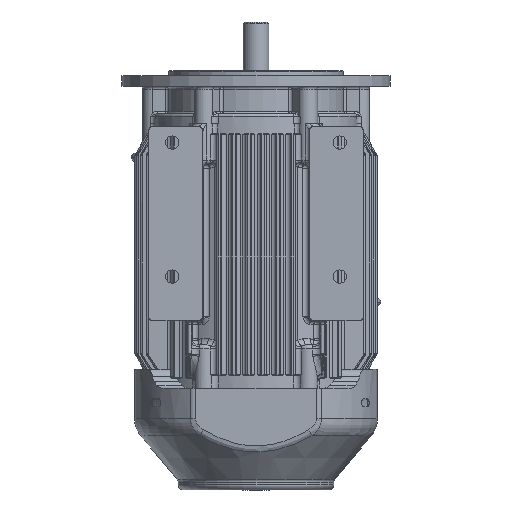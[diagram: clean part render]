
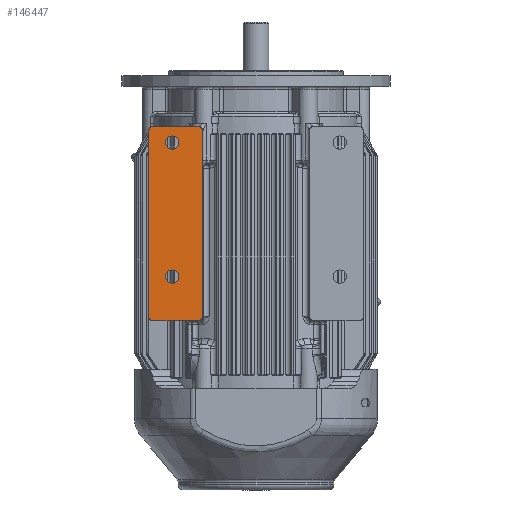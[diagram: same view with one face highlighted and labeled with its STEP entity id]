
A CAD part, front view. The second image highlights one B-rep face of the part: STEP entity #146447.
In plain terms, the highlighted planar face has unit normal (0, -1, 0).
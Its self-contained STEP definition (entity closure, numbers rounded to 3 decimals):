
#238 = DIRECTION ( 'NONE',  ( 1., 0., 0. ) ) ;
#1662 = ORIENTED_EDGE ( 'NONE', *, *, #16305, .T. ) ;
#2825 =( BOUNDED_CURVE ( )  B_SPLINE_CURVE ( 3, ( #99782, #145544, #31659, #110284 ),
 .UNSPECIFIED., .F., .F. ) 
 B_SPLINE_CURVE_WITH_KNOTS ( ( 4, 4 ),
 ( 1.571, 3.142 ),
 .UNSPECIFIED. ) 
 CURVE ( )  GEOMETRIC_REPRESENTATION_ITEM ( )  RATIONAL_B_SPLINE_CURVE ( ( 1., 0.805, 0.805, 1. ) ) 
 REPRESENTATION_ITEM ( '' )  );
#3146 = ORIENTED_EDGE ( 'NONE', *, *, #98882, .T. ) ;
#3353 = VERTEX_POINT ( 'NONE', #114364 ) ;
#4256 = CARTESIAN_POINT ( 'NONE',  ( -77., -80., 92.5 ) ) ;
#7517 = CARTESIAN_POINT ( 'NONE',  ( -80., -80., 92.5 ) ) ;
#10199 = LINE ( 'NONE', #133716, #93737 ) ;
#11158 = CIRCLE ( 'NONE', #64894, 5. ) ;
#12798 = CIRCLE ( 'NONE', #133366, 5. ) ;
#13078 = CARTESIAN_POINT ( 'NONE',  ( -77., -80., 95.5 ) ) ;
#13319 = CARTESIAN_POINT ( 'NONE',  ( -57.5, -80., 83.5 ) ) ;
#14283 = EDGE_LOOP ( 'NONE', ( #133852, #48396 ) ) ;
#14734 = DIRECTION ( 'NONE',  ( 0., -1., 0. ) ) ;
#15062 = LINE ( 'NONE', #29091, #119991 ) ;
#16305 = EDGE_CURVE ( 'NONE', #139267, #91420, #2825, .T. ) ;
#25609 = LINE ( 'NONE', #7517, #111119 ) ;
#28975 = AXIS2_PLACEMENT_3D ( 'NONE', #135524, #33069, #238 ) ;
#29091 = CARTESIAN_POINT ( 'NONE',  ( -77., -80., -49.5 ) ) ;
#29202 = CARTESIAN_POINT ( 'NONE',  ( -42.953, -80., 95.5 ) ) ;
#30966 = CARTESIAN_POINT ( 'NONE',  ( -62.5, -80., 83.5 ) ) ;
#31659 = CARTESIAN_POINT ( 'NONE',  ( -39.949, -80., -48.257 ) ) ;
#31945 = CIRCLE ( 'NONE', #28975, 5. ) ;
#33012 = CARTESIAN_POINT ( 'NONE',  ( -39.949, -80., -46.5 ) ) ;
#33069 = DIRECTION ( 'NONE',  ( 0., -1., 0. ) ) ;
#39892 = CARTESIAN_POINT ( 'NONE',  ( -80., -80., 92.5 ) ) ;
#40293 = CARTESIAN_POINT ( 'NONE',  ( -80., -80., -46.5 ) ) ;
#41426 = CARTESIAN_POINT ( 'NONE',  ( -77., -80., -46.5 ) ) ;
#41486 = DIRECTION ( 'NONE',  ( 1., 0., 0. ) ) ;
#41605 = FACE_BOUND ( 'NONE', #14283, .T. ) ;
#42931 = DIRECTION ( 'NONE',  ( 1., 0., 0. ) ) ;
#44596 = CIRCLE ( 'NONE', #134685, 3. ) ;
#45132 = FACE_BOUND ( 'NONE', #81752, .T. ) ;
#45483 = CARTESIAN_POINT ( 'NONE',  ( -62.5, -80., -16.5 ) ) ;
#45878 = EDGE_CURVE ( 'NONE', #56544, #92261, #31945, .T. ) ;
#46388 = VERTEX_POINT ( 'NONE', #13078 ) ;
#47151 = CARTESIAN_POINT ( 'NONE',  ( -67.5, -80., 83.5 ) ) ;
#48133 = VERTEX_POINT ( 'NONE', #125073 ) ;
#48396 = ORIENTED_EDGE ( 'NONE', *, *, #116465, .F. ) ;
#48761 = EDGE_CURVE ( 'NONE', #91420, #3353, #10199, .T. ) ;
#49288 = ORIENTED_EDGE ( 'NONE', *, *, #89633, .T. ) ;
#49728 = ORIENTED_EDGE ( 'NONE', *, *, #118842, .T. ) ;
#52818 = DIRECTION ( 'NONE',  ( 0., -1., 0. ) ) ;
#53614 = DIRECTION ( 'NONE',  ( 0., 0., 1. ) ) ;
#56544 = VERTEX_POINT ( 'NONE', #47151 ) ;
#60761 = CARTESIAN_POINT ( 'NONE',  ( -39.949, -80., 92.5 ) ) ;
#64894 = AXIS2_PLACEMENT_3D ( 'NONE', #111071, #109613, #41486 ) ;
#71865 = CARTESIAN_POINT ( 'NONE',  ( -42.953, -80., -49.5 ) ) ;
#75254 = DIRECTION ( 'NONE',  ( 0., -1., 0. ) ) ;
#81752 = EDGE_LOOP ( 'NONE', ( #140731, #115315 ) ) ;
#84127 = CARTESIAN_POINT ( 'NONE',  ( -39.949, -80., 94.257 ) ) ;
#85121 = CARTESIAN_POINT ( 'NONE',  ( -41.193, -80., 95.5 ) ) ;
#85573 = VERTEX_POINT ( 'NONE', #147153 ) ;
#86927 = EDGE_LOOP ( 'NONE', ( #49728, #49288, #105129, #3146, #147570, #88282, #1662, #91252 ) ) ;
#88282 = ORIENTED_EDGE ( 'NONE', *, *, #145885, .T. ) ;
#89633 = EDGE_CURVE ( 'NONE', #122772, #46388, #128330, .T. ) ;
#91127 = CIRCLE ( 'NONE', #128765, 5. ) ;
#91252 = ORIENTED_EDGE ( 'NONE', *, *, #48761, .T. ) ;
#91420 = VERTEX_POINT ( 'NONE', #33012 ) ;
#92261 = VERTEX_POINT ( 'NONE', #13319 ) ;
#93737 = VECTOR ( 'NONE', #53614, 1000. ) ;
#94598 = CARTESIAN_POINT ( 'NONE',  ( -42.953, -80., 95.5 ) ) ;
#97007 = CARTESIAN_POINT ( 'NONE',  ( -42.953, -80., 95.5 ) ) ;
#97470 = EDGE_CURVE ( 'NONE', #46388, #126911, #139475, .T. ) ;
#98882 = EDGE_CURVE ( 'NONE', #126911, #130531, #25609, .T. ) ;
#99229 = DIRECTION ( 'NONE',  ( 1., 0., 0. ) ) ;
#99782 = CARTESIAN_POINT ( 'NONE',  ( -42.953, -80., -49.5 ) ) ;
#100851 = AXIS2_PLACEMENT_3D ( 'NONE', #4256, #14734, #117113 ) ;
#101629 = EDGE_CURVE ( 'NONE', #130531, #48133, #44596, .T. ) ;
#102679 = DIRECTION ( 'NONE',  ( 0., -1., 0. ) ) ;
#103179 = DIRECTION ( 'NONE',  ( 1., 0., 0. ) ) ;
#103497 = VECTOR ( 'NONE', #142662, 1000. ) ;
#105129 = ORIENTED_EDGE ( 'NONE', *, *, #97470, .T. ) ;
#109613 = DIRECTION ( 'NONE',  ( 0., -1., 0. ) ) ;
#110219 = CARTESIAN_POINT ( 'NONE',  ( -67.5, -80., -16.5 ) ) ;
#110284 = CARTESIAN_POINT ( 'NONE',  ( -39.949, -80., -46.5 ) ) ;
#110530 = PLANE ( 'NONE',  #112632 ) ;
#111071 = CARTESIAN_POINT ( 'NONE',  ( -62.5, -80., -16.5 ) ) ;
#111119 = VECTOR ( 'NONE', #121293, 1000. ) ;
#111982 = DIRECTION ( 'NONE',  ( 1., 0., 0. ) ) ;
#112632 = AXIS2_PLACEMENT_3D ( 'NONE', #121884, #144811, #124867 ) ;
#114364 = CARTESIAN_POINT ( 'NONE',  ( -39.949, -80., 92.5 ) ) ;
#115315 = ORIENTED_EDGE ( 'NONE', *, *, #45878, .F. ) ;
#116426 = EDGE_CURVE ( 'NONE', #92261, #56544, #91127, .T. ) ;
#116465 = EDGE_CURVE ( 'NONE', #142871, #85573, #11158, .T. ) ;
#117113 = DIRECTION ( 'NONE',  ( 1., 0., 0. ) ) ;
#118842 = EDGE_CURVE ( 'NONE', #3353, #122772, #137168, .T. ) ;
#119991 = VECTOR ( 'NONE', #99229, 1000. ) ;
#121293 = DIRECTION ( 'NONE',  ( 0., 0., -1. ) ) ;
#121884 = CARTESIAN_POINT ( 'NONE',  ( -42.953, -80., 92.5 ) ) ;
#122772 = VERTEX_POINT ( 'NONE', #97007 ) ;
#124867 = DIRECTION ( 'NONE',  ( -1., 0., 0. ) ) ;
#125073 = CARTESIAN_POINT ( 'NONE',  ( -77., -80., -49.5 ) ) ;
#126911 = VERTEX_POINT ( 'NONE', #39892 ) ;
#128330 = LINE ( 'NONE', #29202, #103497 ) ;
#128765 = AXIS2_PLACEMENT_3D ( 'NONE', #30966, #75254, #42931 ) ;
#130531 = VERTEX_POINT ( 'NONE', #40293 ) ;
#133366 = AXIS2_PLACEMENT_3D ( 'NONE', #45483, #102679, #103179 ) ;
#133716 = CARTESIAN_POINT ( 'NONE',  ( -39.949, -80., -46.5 ) ) ;
#133852 = ORIENTED_EDGE ( 'NONE', *, *, #134332, .F. ) ;
#134332 = EDGE_CURVE ( 'NONE', #85573, #142871, #12798, .T. ) ;
#134685 = AXIS2_PLACEMENT_3D ( 'NONE', #41426, #52818, #111982 ) ;
#135524 = CARTESIAN_POINT ( 'NONE',  ( -62.5, -80., 83.5 ) ) ;
#137168 =( BOUNDED_CURVE ( )  B_SPLINE_CURVE ( 3, ( #60761, #84127, #85121, #94598 ),
 .UNSPECIFIED., .F., .F. ) 
 B_SPLINE_CURVE_WITH_KNOTS ( ( 4, 4 ),
 ( 0., 1.571 ),
 .UNSPECIFIED. ) 
 CURVE ( )  GEOMETRIC_REPRESENTATION_ITEM ( )  RATIONAL_B_SPLINE_CURVE ( ( 1., 0.805, 0.805, 1. ) ) 
 REPRESENTATION_ITEM ( '' )  );
#139267 = VERTEX_POINT ( 'NONE', #71865 ) ;
#139475 = CIRCLE ( 'NONE', #100851, 3. ) ;
#140731 = ORIENTED_EDGE ( 'NONE', *, *, #116426, .F. ) ;
#142662 = DIRECTION ( 'NONE',  ( -1., 0., 0. ) ) ;
#142871 = VERTEX_POINT ( 'NONE', #110219 ) ;
#143044 = FACE_OUTER_BOUND ( 'NONE', #86927, .T. ) ;
#144811 = DIRECTION ( 'NONE',  ( 0., -1., 0. ) ) ;
#145544 = CARTESIAN_POINT ( 'NONE',  ( -41.193, -80., -49.5 ) ) ;
#145885 = EDGE_CURVE ( 'NONE', #48133, #139267, #15062, .T. ) ;
#146447 = ADVANCED_FACE ( 'NONE', ( #143044, #45132, #41605 ), #110530, .T. ) ;
#147153 = CARTESIAN_POINT ( 'NONE',  ( -57.5, -80., -16.5 ) ) ;
#147570 = ORIENTED_EDGE ( 'NONE', *, *, #101629, .T. ) ;
